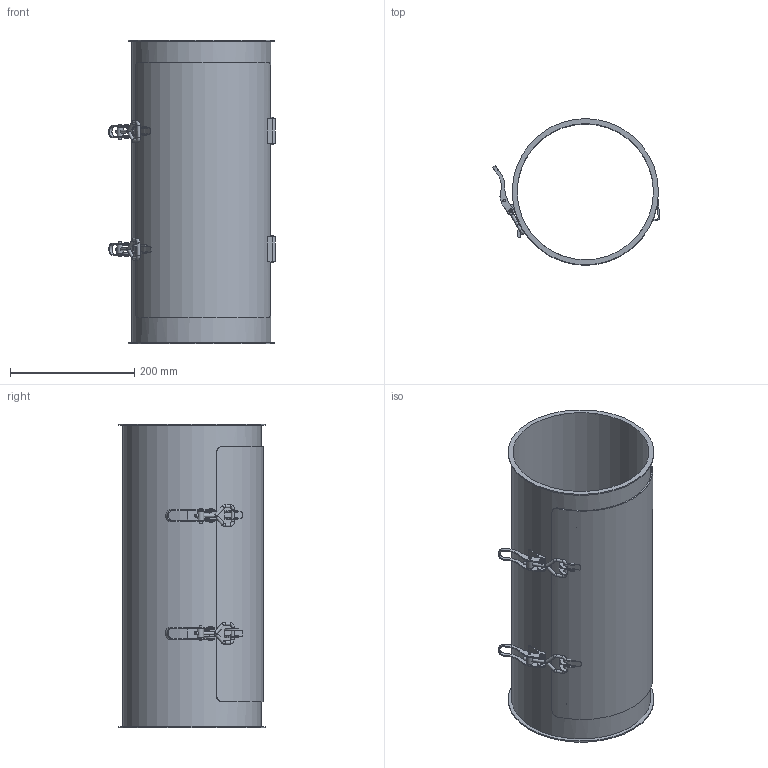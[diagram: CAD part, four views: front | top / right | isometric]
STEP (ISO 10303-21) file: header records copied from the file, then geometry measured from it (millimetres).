
FILE_DESCRIPTION((''),'2;1');
FILE_NAME('U:\Wolfgang\Marcel-3D\fertig\Kapitel 4\2221142.stp','2011-04-21T08:27:11',('TK1'),(''),'Autodesk Inventor 2010','Autodesk Inventor 2010','');
FILE_SCHEMA(('AUTOMOTIVE_DESIGN { 1 0 10303 214 1 1 1 1 }'));
Length unit declared in the file: millimetre
Products named in the file (14): 2221142; 2221142-Rohr; Gelenk22; Verschluss2221142; Verschluss22a; Verschluss1b; Verschluss1c; Verschluss1d; Verschluss1e; Deckel22; 2221142 Halterung2; 2221142 verschluss; 2221142-Deckel; 2221142 Halterung3
Assembly tree (19 placements, depth 3):
  2221142
    2221142-Rohr
    Gelenk22  x2
    Verschluss2221142  x2
      Verschluss22a
      Verschluss1b
      Verschluss1c
      Verschluss1d
      Verschluss1e
    Deckel22
      2221142 Halterung2  x2
      2221142 verschluss  x2
      2221142-Deckel
    2221142 Halterung3  x2
Bounding box: 268.06 x 235 x 488 mm (x, y, z)
Volume: 807628.9 mm3; surface area: 819517.2 mm2
Topology: 22 solids, 22 shells, 336 faces, 803 edges, 519 vertices
Faces by surface type: plane 159, cylinder 148, torus 18, bspline 7, sphere 4
Full cylindrical faces by diameter (mm): 2 x8, 4 x8, 5 x12, 6 x12, 6.2 x4, 10 x2, 219 x1, 223 x1, 235 x2
Entity records: 5649 total; most frequent: CARTESIAN_POINT 1144, DIRECTION 922, ORIENTED_EDGE 770, EDGE_CURVE 385, AXIS2_PLACEMENT_3D 356, VERTEX_POINT 270, EDGE_LOOP 243, VECTOR 210
